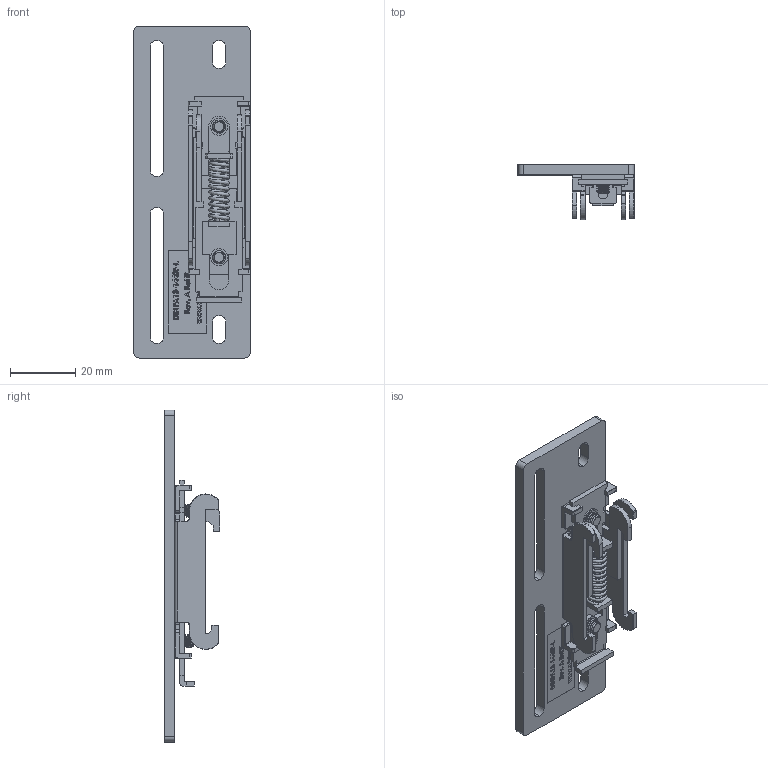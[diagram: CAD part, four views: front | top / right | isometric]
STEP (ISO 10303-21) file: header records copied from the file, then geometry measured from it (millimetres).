
FILE_DESCRIPTION (( 'STEP AP214' ), '1' );
FILE_NAME ('dinpa13-1440f-l_rev_a.step', '2026-02-18T21:24:59', ( '' ), ( '' ), 'SwSTEP 2.0', 'SolidWorks 2018', '' );
FILE_SCHEMA (( 'AUTOMOTIVE_DESIGN' ));
Length unit declared in the file: inch
Products named in the file (5): dinpa13-1440f_plate; M4 8mm FH_92010A218; dinpa13-1440f-l_rev_a; dinm22; DINPA13-1440F-L Label
Assembly tree (5 placements, depth 2):
  dinpa13-1440f-l_rev_a
    dinpa13-1440f_plate
    M4 8mm FH_92010A218  x2
    dinm22
    DINPA13-1440F-L Label
Bounding box: 35.56 x 16.95 x 101.6 mm (x, y, z)
Volume: 14108.5 mm3; surface area: 15969.1 mm2
Topology: 7 solids, 7 shells, 1054 faces, 2803 edges, 1819 vertices
Faces by surface type: plane 552, cylinder 239, bspline 154, torus 75, cone 34
Entity records: 54080 total; most frequent: CARTESIAN_POINT 18855, ORIENTED_EDGE 5208, DIRECTION 4349, EDGE_CURVE 2604, VECTOR 1733, LINE 1733, VERTEX_POINT 1689, AXIS2_PLACEMENT_3D 1308
